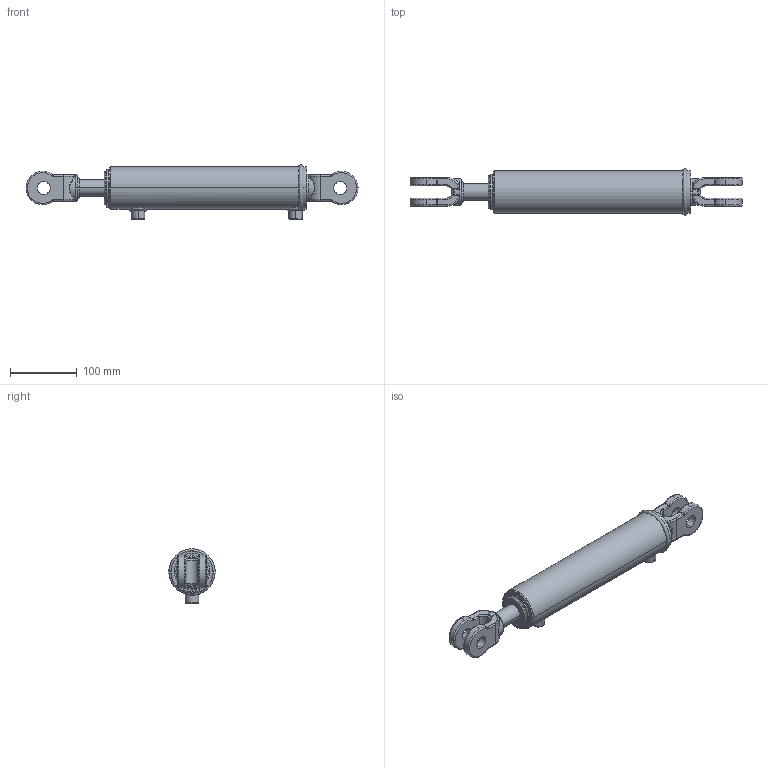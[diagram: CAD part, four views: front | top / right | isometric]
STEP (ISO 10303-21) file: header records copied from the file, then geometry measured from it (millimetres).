
FILE_DESCRIPTION (( 'STEP AP203' ), '1' );
FILE_NAME ('CL-CL200100x203 (8).STEP', '2014-11-20T22:12:44', ( '' ), ( '' ), 'SwSTEP 2.0', 'SolidWorks 2014', '' );
FILE_SCHEMA (( 'CONFIG_CONTROL_DESIGN' ));
Length unit declared in the file: millimetre
Products named in the file (5): 8 SPARE; CL-CL200100x203 (8); CL-CL150075x203 (8) BODY; 2 inch ext circlip; CL-CL200100x203 (8) BODY
Assembly tree (4 placements, depth 3):
  CL-CL200100x203 (8)
    CL-CL200100x203 (8) BODY
      CL-CL150075x203 (8) BODY
      2 inch ext circlip
    8 SPARE
Bounding box: 497.41 x 69.5 x 81.5 mm (x, y, z)
Volume: 1176573.6 mm3; surface area: 139537.6 mm2
Topology: 3 solids, 3 shells, 284 faces, 701 edges, 419 vertices
Faces by surface type: bspline 117, cylinder 108, plane 37, torus 14, cone 8
Entity records: 24865 total; most frequent: CARTESIAN_POINT 18431, ORIENTED_EDGE 1370, DIRECTION 1046, EDGE_CURVE 685, AXIS2_PLACEMENT_3D 435, VERTEX_POINT 419, EDGE_LOOP 308, ADVANCED_FACE 284
